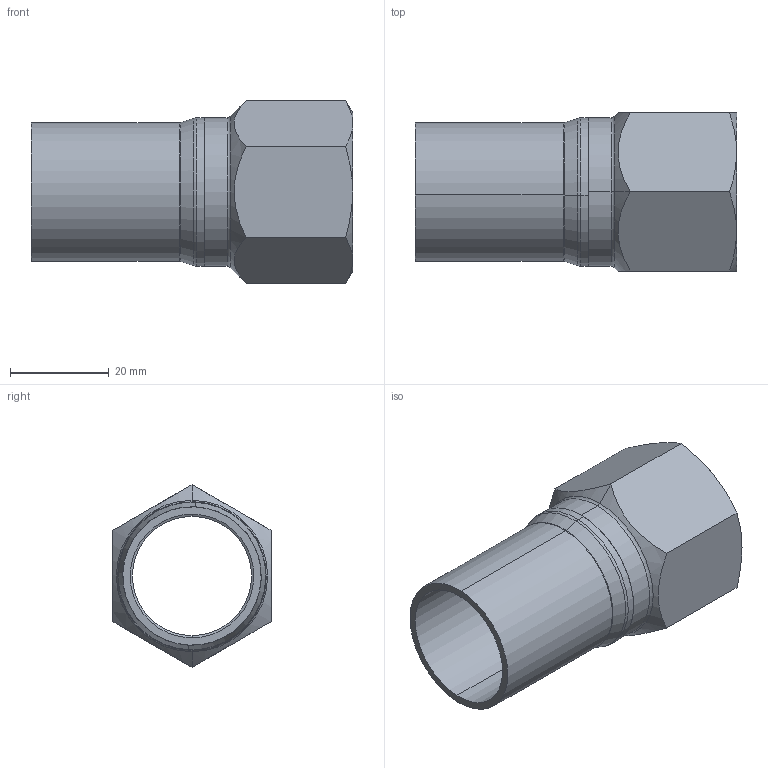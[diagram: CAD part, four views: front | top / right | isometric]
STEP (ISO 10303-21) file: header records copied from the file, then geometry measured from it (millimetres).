
FILE_DESCRIPTION (( 'STEP AP203' ), '1' );
FILE_NAME ('GDA6388.STEP', '2022-09-01T08:51:59', ( 'Windows User' ), ( 'P R C' ), 'SwSTEP 2.0', 'SolidWorks 2015', '' );
FILE_SCHEMA (( 'CONFIG_CONTROL_DESIGN' ));
Length unit declared in the file: millimetre
Products named in the file (3): GDA6388; OD28｡ﾁ0.75; 眻奪28 -30
Assembly tree (2 placements, depth 2):
  GDA6388
    OD28｡ﾁ0.75
    眻奪28 -30
Bounding box: 65 x 32 x 36.95 mm (x, y, z)
Volume: 15062.3 mm3; surface area: 12338.7 mm2
Topology: 2 solids, 2 shells, 51 faces, 106 edges, 59 vertices
Faces by surface type: cone 17, cylinder 14, torus 10, plane 10
Entity records: 1772 total; most frequent: CARTESIAN_POINT 379, DIRECTION 257, ORIENTED_EDGE 212, AXIS2_PLACEMENT_3D 113, EDGE_CURVE 106, VERTEX_POINT 59, CIRCLE 57, EDGE_LOOP 55
